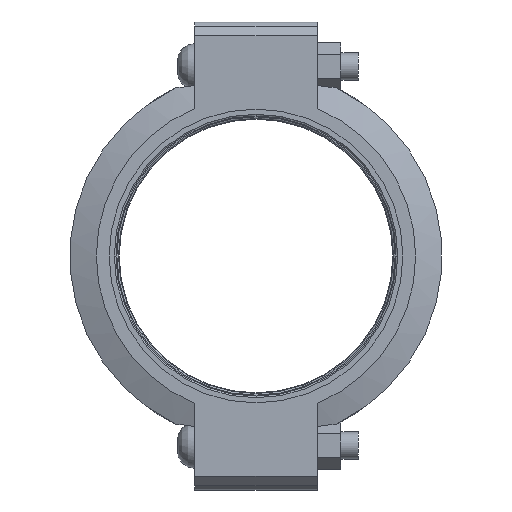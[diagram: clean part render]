
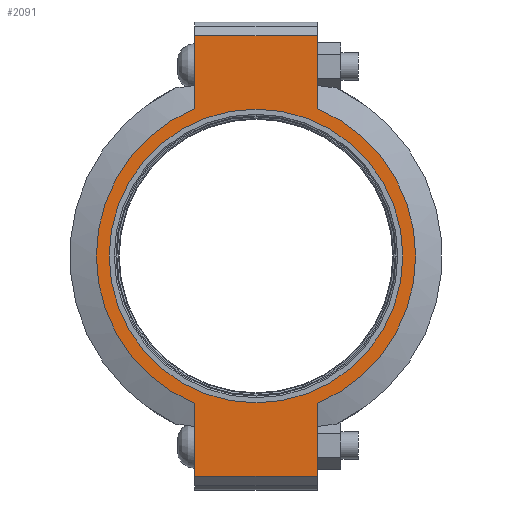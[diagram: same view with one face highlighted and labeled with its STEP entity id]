
A CAD part, left-side view. The second image highlights one B-rep face of the part: STEP entity #2091.
In plain terms, the highlighted planar face has unit normal (-1, 0, 0) as drawn and (0, 0, 1) by its records, which use the part's own axes.
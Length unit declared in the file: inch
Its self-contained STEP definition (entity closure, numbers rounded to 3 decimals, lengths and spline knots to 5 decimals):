
#144=LINE('',#3703,#239);
#155=LINE('',#3754,#250);
#161=LINE('',#3780,#256);
#163=LINE('',#3783,#258);
#164=LINE('',#3788,#259);
#165=LINE('',#3789,#260);
#239=VECTOR('',#3040,0.3937);
#250=VECTOR('',#3071,0.3937);
#256=VECTOR('',#3089,0.3937);
#258=VECTOR('',#3093,0.3937);
#259=VECTOR('',#3098,0.3937);
#260=VECTOR('',#3099,0.3937);
#327=FACE_BOUND('',#600,.T.);
#372=PLANE('',#2463);
#467=FACE_OUTER_BOUND('',#599,.T.);
#599=EDGE_LOOP('',(#1772,#1773,#1774,#1775,#1776,#1777,#1778,#1779));
#600=EDGE_LOOP('',(#1780));
#761=CIRCLE('',#2412,5.375);
#785=CIRCLE('',#2464,5.845);
#786=CIRCLE('',#2465,5.845);
#920=VERTEX_POINT('',#3529);
#961=VERTEX_POINT('',#3700);
#962=VERTEX_POINT('',#3702);
#979=VERTEX_POINT('',#3749);
#980=VERTEX_POINT('',#3753);
#987=VERTEX_POINT('',#3775);
#988=VERTEX_POINT('',#3779);
#989=VERTEX_POINT('',#3785);
#990=VERTEX_POINT('',#3787);
#1169=EDGE_CURVE('',#920,#920,#761,.T.);
#1226=EDGE_CURVE('',#962,#961,#144,.T.);
#1247=EDGE_CURVE('',#980,#979,#155,.T.);
#1258=EDGE_CURVE('',#988,#987,#161,.T.);
#1260=EDGE_CURVE('',#988,#961,#163,.T.);
#1261=EDGE_CURVE('',#987,#989,#785,.T.);
#1262=EDGE_CURVE('',#989,#990,#164,.T.);
#1263=EDGE_CURVE('',#980,#990,#165,.T.);
#1264=EDGE_CURVE('',#979,#962,#786,.T.);
#1772=ORIENTED_EDGE('',*,*,#1260,.F.);
#1773=ORIENTED_EDGE('',*,*,#1258,.T.);
#1774=ORIENTED_EDGE('',*,*,#1261,.T.);
#1775=ORIENTED_EDGE('',*,*,#1262,.T.);
#1776=ORIENTED_EDGE('',*,*,#1263,.F.);
#1777=ORIENTED_EDGE('',*,*,#1247,.T.);
#1778=ORIENTED_EDGE('',*,*,#1264,.T.);
#1779=ORIENTED_EDGE('',*,*,#1226,.T.);
#1780=ORIENTED_EDGE('',*,*,#1169,.T.);
#2091=ADVANCED_FACE('',(#467,#327),#372,.T.);
#2412=AXIS2_PLACEMENT_3D('',#3531,#2930,#2931);
#2463=AXIS2_PLACEMENT_3D('',#3784,#3094,#3095);
#2464=AXIS2_PLACEMENT_3D('',#3786,#3096,#3097);
#2465=AXIS2_PLACEMENT_3D('',#3790,#3100,#3101);
#2930=DIRECTION('center_axis',(0.,0.,-1.));
#2931=DIRECTION('ref_axis',(1.,0.,0.));
#3040=DIRECTION('',(1.,0.,0.));
#3071=DIRECTION('',(1.,0.,0.));
#3089=DIRECTION('',(-1.,0.,0.));
#3093=DIRECTION('',(0.,-1.,0.));
#3094=DIRECTION('center_axis',(0.,0.,1.));
#3095=DIRECTION('ref_axis',(-1.,0.,0.));
#3096=DIRECTION('center_axis',(0.,0.,1.));
#3097=DIRECTION('ref_axis',(1.,0.,0.));
#3098=DIRECTION('',(-1.,0.,0.));
#3099=DIRECTION('',(0.,1.,0.));
#3100=DIRECTION('center_axis',(0.,0.,1.));
#3101=DIRECTION('ref_axis',(1.,0.,0.));
#3529=CARTESIAN_POINT('',(-5.375,0.,1.315));
#3531=CARTESIAN_POINT('Origin',(0.,0.,1.315));
#3700=CARTESIAN_POINT('',(8.065,-2.25,1.315));
#3702=CARTESIAN_POINT('',(5.39458,-2.25,1.315));
#3703=CARTESIAN_POINT('',(-8.565,-2.25,1.315));
#3749=CARTESIAN_POINT('',(-5.39458,-2.25,1.315));
#3753=CARTESIAN_POINT('',(-8.065,-2.25,1.315));
#3754=CARTESIAN_POINT('',(-8.565,-2.25,1.315));
#3775=CARTESIAN_POINT('',(5.39458,2.25,1.315));
#3779=CARTESIAN_POINT('',(8.065,2.25,1.315));
#3780=CARTESIAN_POINT('',(8.565,2.25,1.315));
#3783=CARTESIAN_POINT('',(8.065,-1.125,1.315));
#3784=CARTESIAN_POINT('Origin',(0.,0.,
1.315));
#3785=CARTESIAN_POINT('',(-5.39458,2.25,1.315));
#3786=CARTESIAN_POINT('Origin',(0.,0.,1.315));
#3787=CARTESIAN_POINT('',(-8.065,2.25,1.315));
#3788=CARTESIAN_POINT('',(8.565,2.25,1.315));
#3789=CARTESIAN_POINT('',(-8.065,1.125,1.315));
#3790=CARTESIAN_POINT('Origin',(0.,0.,1.315));
